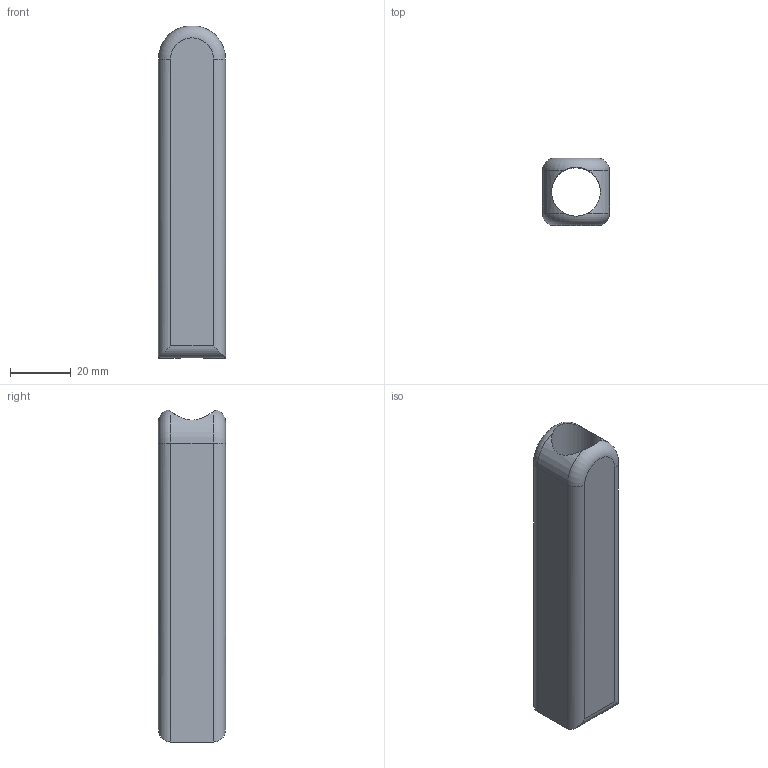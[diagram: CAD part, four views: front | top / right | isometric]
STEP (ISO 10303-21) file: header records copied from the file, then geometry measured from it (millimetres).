
FILE_DESCRIPTION(/* description */ (''),/* implementation_level */ '2;1');
FILE_NAME(/* name */ 'C:/Users/Owner/Desktop/KCAD Projects/K-CAD Songbird PM4 Center-fire/STEP/Barrels/Barrel Type 1/Barrel Type 1- 16mm ID.step',/* time_stamp */ '2021-03-12T15:09:52-05:00',/* author */ (''),/* organization */ (''),/* preprocessor_version */ 'ST-DEVELOPER v18.1',/* originating_system */ 'Autodesk Translation Framework v9.10.0.1330',/* authorisation */ '');
FILE_SCHEMA (('AUTOMOTIVE_DESIGN { 1 0 10303 214 3 1 1 }'));
Length unit declared in the file: millimetre
Products named in the file (1): Barrel Type 1 .4 inch ID
Bounding box: 22 x 22 x 108.87 mm (x, y, z)
Volume: 28166.4 mm3; surface area: 14339.9 mm2
Topology: 1 solids, 1 shells, 17 faces, 43 edges, 26 vertices
Faces by surface type: cylinder 9, plane 6, torus 2
Full cylindrical faces by diameter (mm): 16 x1
Entity records: 615 total; most frequent: CARTESIAN_POINT 162, DIRECTION 89, ORIENTED_EDGE 86, EDGE_CURVE 43, AXIS2_PLACEMENT_3D 35, VERTEX_POINT 26, LINE 19, VECTOR 19
